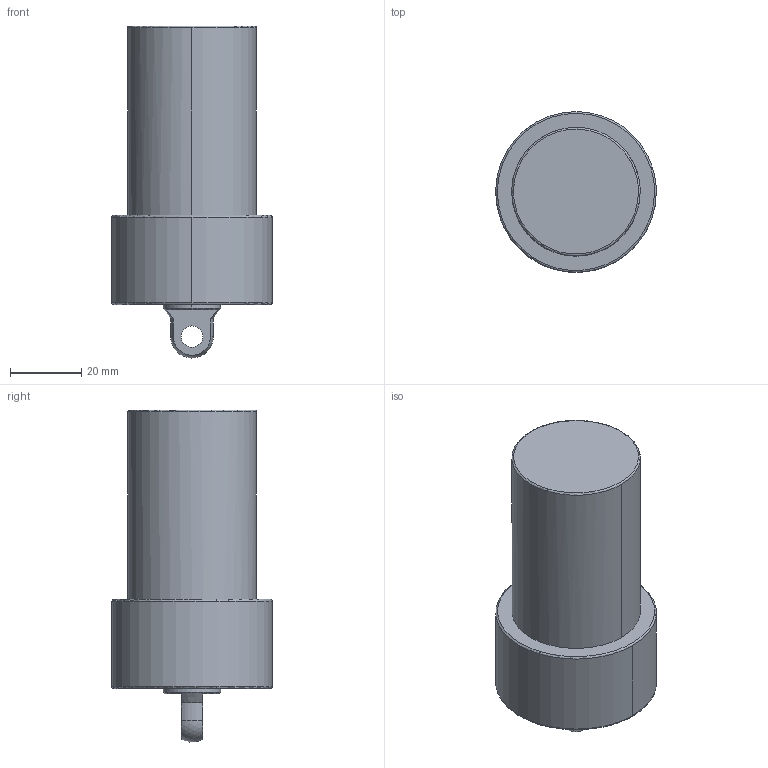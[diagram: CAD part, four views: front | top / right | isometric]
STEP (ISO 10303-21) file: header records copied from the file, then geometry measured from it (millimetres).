
FILE_DESCRIPTION((' '),'2;1');
FILE_NAME( 'TLLU-036GP-045.STEP.stp', '2025-10-24T16:37:09', (' '), ('--- Datakit www.datakit.com---'), ' Datakit CrossCadWare V2024.1 Dec 21 2023', 'Mastercam 2025', ' ');
FILE_SCHEMA(('AUTOMOTIVE_DESIGN { 1 0 10303 214 1 1 1 1 }'));
Length unit declared in the file: millimetre
Products named in the file (1): TLLU-036GP-045
Bounding box: 44.99 x 45 x 92.97 mm (x, y, z)
Volume: 94060.4 mm3; surface area: 13698.3 mm2
Topology: 1 solids, 1 shells, 56 faces, 159 edges, 105 vertices
Faces by surface type: cylinder 22, cone 18, plane 9, torus 6, sphere 1
Entity records: 1872 total; most frequent: DIRECTION 364, CARTESIAN_POINT 325, ORIENTED_EDGE 302, AXIS2_PLACEMENT_3D 160, EDGE_CURVE 151, VERTEX_POINT 105, CIRCLE 103, EDGE_LOOP 66
